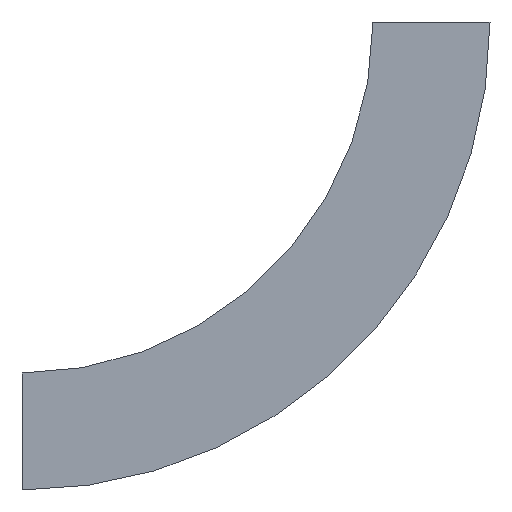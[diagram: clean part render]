
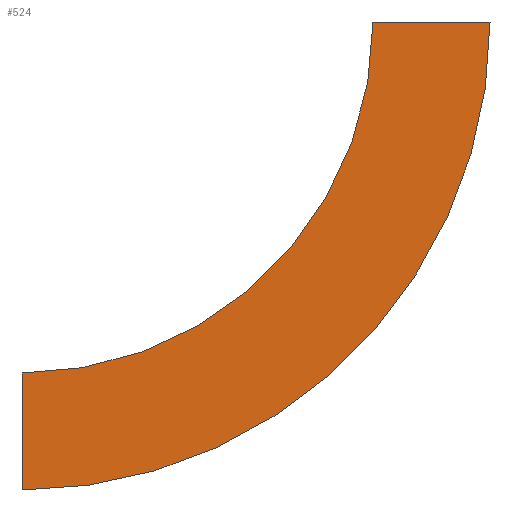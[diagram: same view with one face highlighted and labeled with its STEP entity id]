
A CAD part, left-side view. The second image highlights one B-rep face of the part: STEP entity #524.
In plain terms, the highlighted planar face has unit normal (-1, 0, 0) as drawn and (1, 0, 0) by its records, which use the part's own axes.
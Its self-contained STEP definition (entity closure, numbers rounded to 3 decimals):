
#7 = ORIENTED_EDGE ( 'NONE', *, *, #20, .T. ) ;
#20 = EDGE_CURVE ( 'NONE', #120, #453, #141, .T. ) ;
#24 = CIRCLE ( 'NONE', #366, 300. ) ;
#29 = CARTESIAN_POINT ( 'NONE',  ( 0., 300., -300. ) ) ;
#59 = EDGE_CURVE ( 'NONE', #129, #120, #218, .T. ) ;
#77 = CARTESIAN_POINT ( 'NONE',  ( 0., 300., -400. ) ) ;
#80 = ORIENTED_EDGE ( 'NONE', *, *, #59, .T. ) ;
#85 = VECTOR ( 'NONE', #113, 1000. ) ;
#99 = CARTESIAN_POINT ( 'NONE',  ( 0., 0., 0. ) ) ;
#103 = PLANE ( 'NONE',  #227 ) ;
#113 = DIRECTION ( 'NONE',  ( 0., 1., 0. ) ) ;
#114 = VECTOR ( 'NONE', #319, 1000. ) ;
#117 = DIRECTION ( 'NONE',  ( 0., -1., 0. ) ) ;
#120 = VERTEX_POINT ( 'NONE', #77 ) ;
#125 = EDGE_LOOP ( 'NONE', ( #539, #166, #80, #7 ) ) ;
#129 = VERTEX_POINT ( 'NONE', #341 ) ;
#131 = CARTESIAN_POINT ( 'NONE',  ( 0., 300., -400. ) ) ;
#141 = LINE ( 'NONE', #131, #114 ) ;
#166 = ORIENTED_EDGE ( 'NONE', *, *, #186, .F. ) ;
#186 = EDGE_CURVE ( 'NONE', #129, #443, #344, .T. ) ;
#207 = CARTESIAN_POINT ( 'NONE',  ( 0., 300., 0. ) ) ;
#218 = CIRCLE ( 'NONE', #445, 400. ) ;
#227 = AXIS2_PLACEMENT_3D ( 'NONE', #285, #474, #424 ) ;
#279 = FACE_OUTER_BOUND ( 'NONE', #125, .T. ) ;
#285 = CARTESIAN_POINT ( 'NONE',  ( 0., -100., 0. ) ) ;
#311 = DIRECTION ( 'NONE',  ( 0., -1., 0. ) ) ;
#316 = DIRECTION ( 'NONE',  ( 1., 0., 0. ) ) ;
#319 = DIRECTION ( 'NONE',  ( 0., 0., 1. ) ) ;
#341 = CARTESIAN_POINT ( 'NONE',  ( 0., -100., 0. ) ) ;
#344 = LINE ( 'NONE', #525, #85 ) ;
#366 = AXIS2_PLACEMENT_3D ( 'NONE', #207, #316, #311 ) ;
#424 = DIRECTION ( 'NONE',  ( 0., 0., 1. ) ) ;
#443 = VERTEX_POINT ( 'NONE', #99 ) ;
#445 = AXIS2_PLACEMENT_3D ( 'NONE', #572, #526, #117 ) ;
#453 = VERTEX_POINT ( 'NONE', #29 ) ;
#474 = DIRECTION ( 'NONE',  ( -1., 0., 0. ) ) ;
#524 = ADVANCED_FACE ( 'NONE', ( #279 ), #103, .F. ) ;
#525 = CARTESIAN_POINT ( 'NONE',  ( 0., -100., 0. ) ) ;
#526 = DIRECTION ( 'NONE',  ( 1., 0., 0. ) ) ;
#539 = ORIENTED_EDGE ( 'NONE', *, *, #540, .F. ) ;
#540 = EDGE_CURVE ( 'NONE', #443, #453, #24, .T. ) ;
#572 = CARTESIAN_POINT ( 'NONE',  ( 0., 300., 0. ) ) ;
